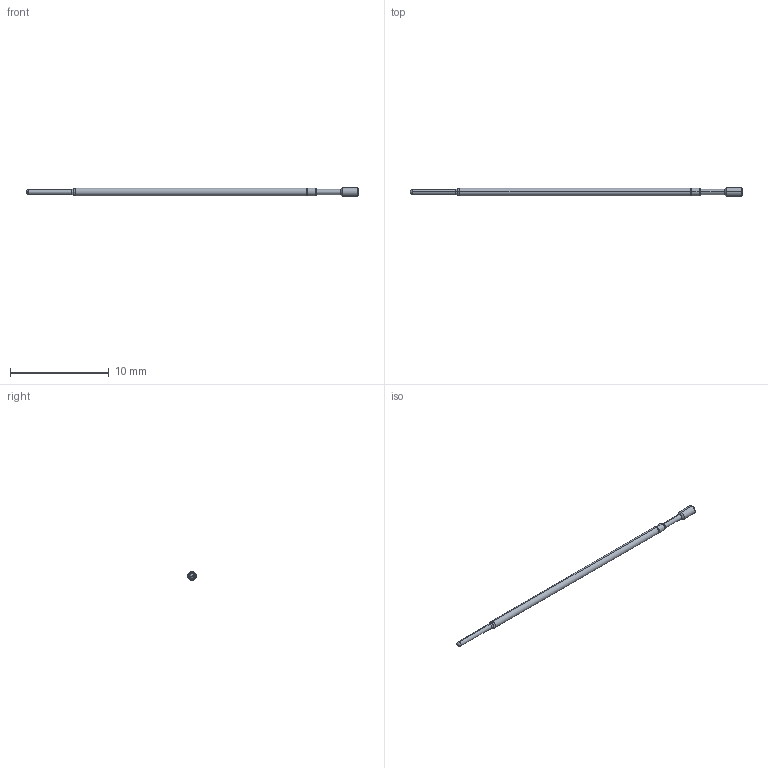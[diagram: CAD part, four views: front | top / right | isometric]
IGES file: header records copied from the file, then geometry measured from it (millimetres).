
Start section: SolidWorks IGES file using analytic representation for surfaces
Global section: file name: C:\Documents and Settings\mrumschlag\Desktop\changes\new\test\F RECD.IGS; native system: SolidWorks 2011; preprocessor: SolidWorks 2011; author: mrumschlag; date: 110630.142723; units: inch
Bounding box: 33.69 x 0.89 x 0.89 mm (x, y, z)
Surface area: 76.5 mm2 (no closed solid volume)
Topology: 0 solids, 0 shells, 30 faces, 164 edges, 162 vertices
Faces by surface type: revolution 20, bspline 10
